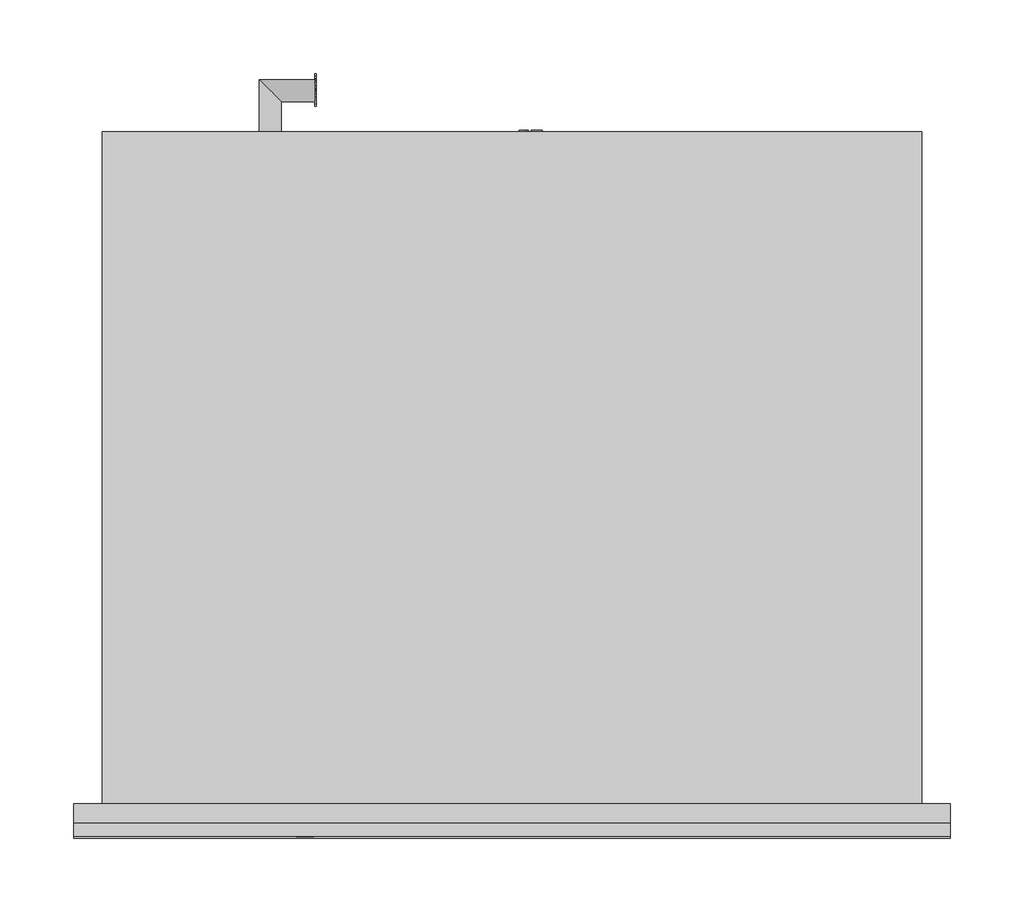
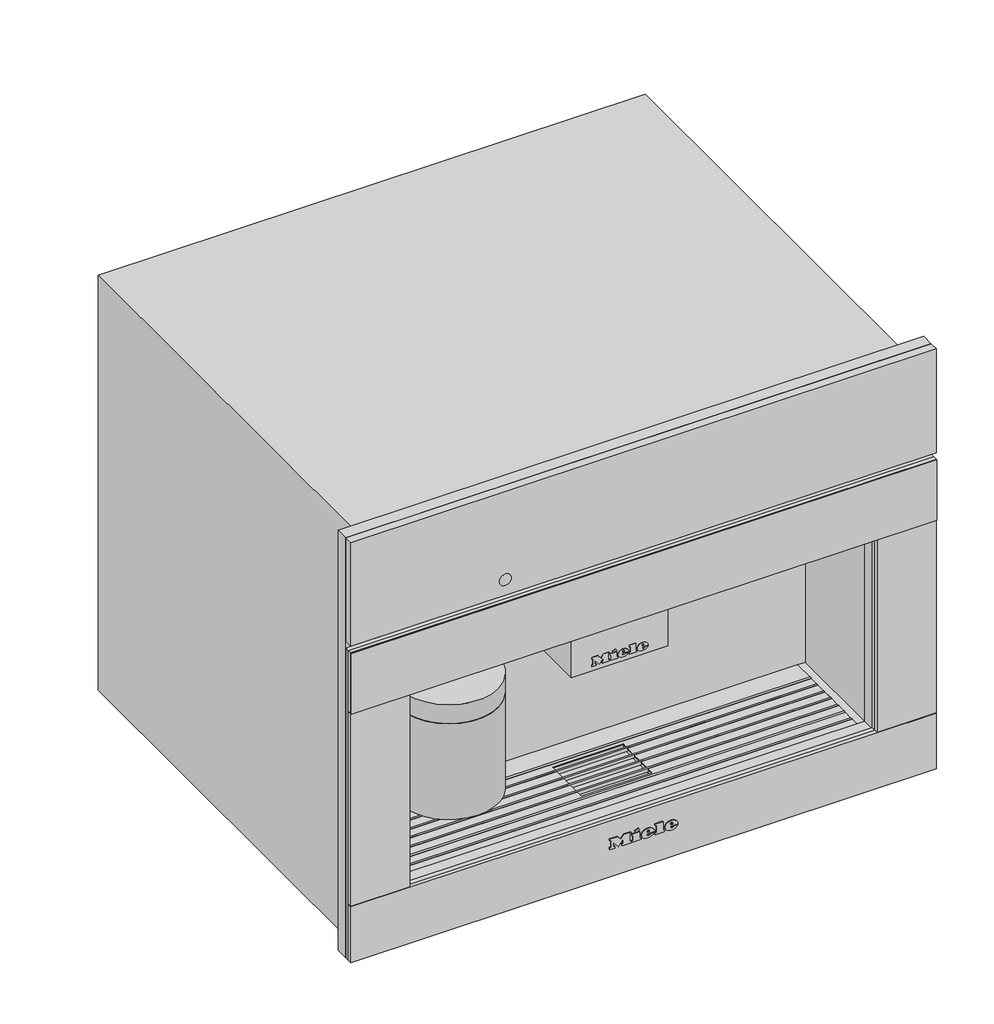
# Not in any storey: 1 proxy.
"""IFC4 building model written with IfcOpenShell, lengths in millimetres."""

from ifc_helpers import new_model, si_unit, origin, place, context, project, spatial, transform, mapped, element, save
from components import specialty_equipment_d38e7a34

model = new_model("IFC4")

# Units and contexts
model_context = context("Model", 3, world=origin())
ifc_project = project(units=[si_unit("LENGTHUNIT", "METRE", prefix="MILLI")], contexts=[model_context])

# Site, building
site = spatial("IfcSite", under=ifc_project)
building = spatial("IfcBuilding", under=site)

# Proxy
placement = place(None, origin())
specialty_equipment_shape = specialty_equipment_d38e7a34(model_context)
element("IfcBuildingElementProxy", 1, Name="11164780_CZ_CVA7845_EDST-CLST : 29784540_CZ_11164780_CVA7845_EDST-CLST", ObjectType="11164780_CZ_CVA7845_EDST-CLST : 29784540_CZ_11164780_CVA7845_EDST-CLST", at=placement, inside=building, context=model_context, shape_type="MappedRepresentation", body=[
    mapped(specialty_equipment_shape, transform((0.0, 0.0, 0.0), x_axis=(1.0, 0.0, 0.0), y_axis=(0.0, 1.0, 0.0), z_axis=(0.0, 0.0, 1.0))),
])

save(model, "model.ifc")
